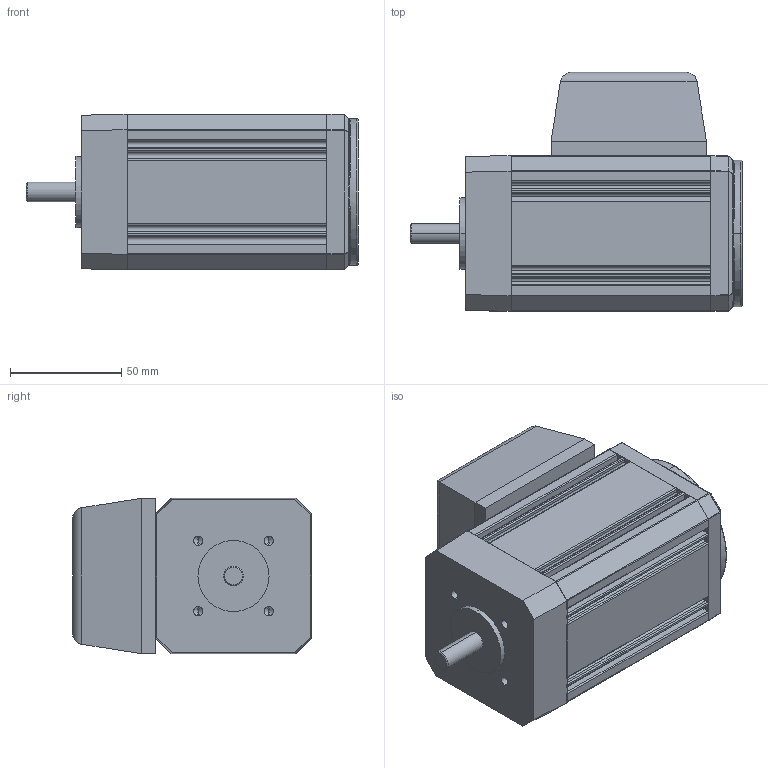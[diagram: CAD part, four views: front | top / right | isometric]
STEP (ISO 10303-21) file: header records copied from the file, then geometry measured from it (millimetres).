
FILE_DESCRIPTION(('OneSpaceDesigner STEP Export'),'2;1');
FILE_NAME('UE30_T_B14.stp','2008-04-16T10:21:38',(''),(''),'OneSpace Designer STEP processor (Jan. 2003) for AP214(CD)(Solid Model)','OneSpace Designer 12.01D 09-Jul-2004 (C) CoCreate Software GmbH','');
FILE_SCHEMA(('AUTOMOTIVE_DESIGN_CC2 {1 2 10303 214 -1 1 5 1}'));
Length unit declared in the file: millimetre
Products named in the file (2): UE30_T_B14
Assembly tree (1 placements, depth 2):
  UE30_T_B14
    UE30_T_B14
Bounding box: 149.5 x 107.6 x 70.2 mm (x, y, z)
Volume: 735686.2 mm3; surface area: 69220.9 mm2
Topology: 1 solids, 1 shells, 278 faces, 720 edges, 440 vertices
Faces by surface type: cylinder 126, plane 108, bspline 24, cone 10, sphere 8, torus 2
Entity records: 10620 total; most frequent: CARTESIAN_POINT 4245, ORIENTED_EDGE 1408, DIRECTION 1192, EDGE_CURVE 704, VERTEX_POINT 440, VECTOR 402, LINE 402, AXIS2_PLACEMENT_3D 395
